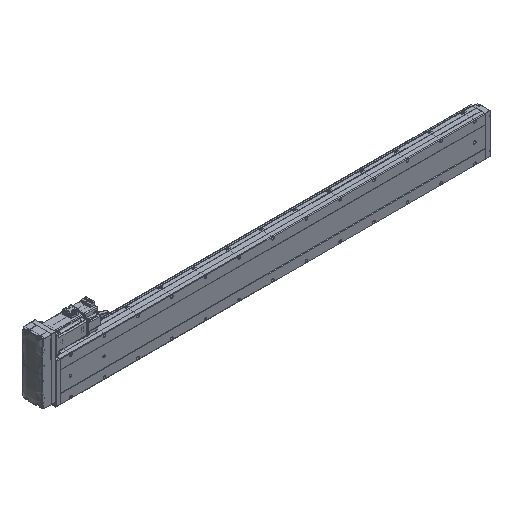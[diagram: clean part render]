
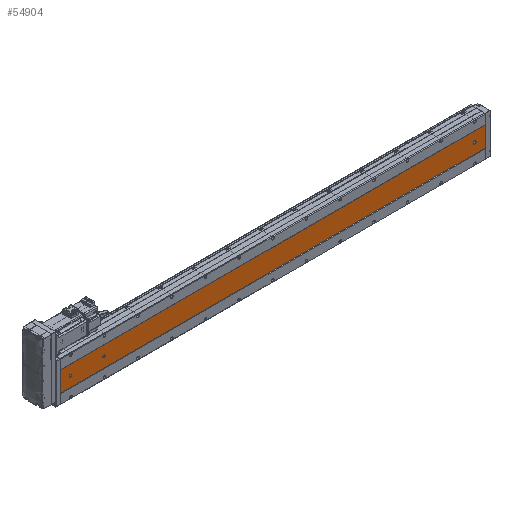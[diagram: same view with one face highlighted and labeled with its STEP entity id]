
A CAD part, isometric view. The second image highlights one B-rep face of the part: STEP entity #54904.
In plain terms, the highlighted planar face has unit normal (0, -1, 0).
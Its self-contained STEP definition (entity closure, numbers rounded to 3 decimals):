
#359 = AXIS2_PLACEMENT_3D ( 'NONE', #56920, #107806, #3283 ) ;
#1152 = VECTOR ( 'NONE', #54715, 1000. ) ;
#2193 = CARTESIAN_POINT ( 'NONE',  ( -69.892, -52.848, 1261. ) ) ;
#3283 = DIRECTION ( 'NONE',  ( 0., 0., 1. ) ) ;
#3406 = VECTOR ( 'NONE', #56566, 1000. ) ;
#3443 = CARTESIAN_POINT ( 'NONE',  ( -36.392, -52.848, 32. ) ) ;
#4205 = EDGE_CURVE ( 'NONE', #46307, #68909, #112987, .T. ) ;
#7248 = CARTESIAN_POINT ( 'NONE',  ( -69.892, -52.848, 1261. ) ) ;
#7480 = DIRECTION ( 'NONE',  ( 0., 1., 0. ) ) ;
#7876 = VERTEX_POINT ( 'NONE', #112672 ) ;
#8264 = EDGE_CURVE ( 'NONE', #68909, #46307, #36563, .T. ) ;
#9391 = CARTESIAN_POINT ( 'NONE',  ( -36.392, -52.848, 1261. ) ) ;
#9656 = CARTESIAN_POINT ( 'NONE',  ( -39.892, -52.848, 1227.5 ) ) ;
#12450 = PLANE ( 'NONE',  #55963 ) ;
#12919 = CARTESIAN_POINT ( 'NONE',  ( -39.892, -52.848, 26.5 ) ) ;
#13784 = AXIS2_PLACEMENT_3D ( 'NONE', #35088, #79079, #77630 ) ;
#14597 = DIRECTION ( 'NONE',  ( 0., 1., 0. ) ) ;
#14779 = EDGE_CURVE ( 'NONE', #97985, #112147, #104602, .T. ) ;
#17572 = VERTEX_POINT ( 'NONE', #3443 ) ;
#18052 = CARTESIAN_POINT ( 'NONE',  ( -39.892, -52.848, 1231. ) ) ;
#18172 = VECTOR ( 'NONE', #104129, 1000. ) ;
#18273 = EDGE_CURVE ( 'NONE', #7876, #62417, #25791, .T. ) ;
#19155 = CARTESIAN_POINT ( 'NONE',  ( -9.892, -52.848, 1261. ) ) ;
#19468 = VERTEX_POINT ( 'NONE', #23218 ) ;
#20029 = ORIENTED_EDGE ( 'NONE', *, *, #100970, .T. ) ;
#21710 = EDGE_LOOP ( 'NONE', ( #98675, #73452, #84254, #29317 ) ) ;
#21763 = DIRECTION ( 'NONE',  ( 0., 0., 1. ) ) ;
#21790 = VERTEX_POINT ( 'NONE', #34909 ) ;
#22935 = DIRECTION ( 'NONE',  ( 0., 1., 0. ) ) ;
#23218 = CARTESIAN_POINT ( 'NONE',  ( -43.392, -52.848, 30. ) ) ;
#24712 = DIRECTION ( 'NONE',  ( 0., 0., 1. ) ) ;
#24803 = ORIENTED_EDGE ( 'NONE', *, *, #64532, .T. ) ;
#25791 = CIRCLE ( 'NONE', #93755, 3.5 ) ;
#26712 = LINE ( 'NONE', #38157, #3406 ) ;
#26984 = EDGE_LOOP ( 'NONE', ( #108599, #111342 ) ) ;
#29317 = ORIENTED_EDGE ( 'NONE', *, *, #34179, .T. ) ;
#30383 = VERTEX_POINT ( 'NONE', #78354 ) ;
#30747 = VECTOR ( 'NONE', #45327, 1000. ) ;
#34104 = CARTESIAN_POINT ( 'NONE',  ( -9.892, -52.848, 0. ) ) ;
#34179 = EDGE_CURVE ( 'NONE', #97985, #21790, #49067, .T. ) ;
#34840 = LINE ( 'NONE', #92405, #54009 ) ;
#34909 = CARTESIAN_POINT ( 'NONE',  ( -69.892, -52.848, 0. ) ) ;
#35088 = CARTESIAN_POINT ( 'NONE',  ( -39.892, -52.848, 1131. ) ) ;
#36563 = CIRCLE ( 'NONE', #60737, 3.5 ) ;
#38120 = LINE ( 'NONE', #19155, #81914 ) ;
#38157 = CARTESIAN_POINT ( 'NONE',  ( -43.392, -52.848, 1261. ) ) ;
#39990 = DIRECTION ( 'NONE',  ( 1., 0., 0. ) ) ;
#43218 = ORIENTED_EDGE ( 'NONE', *, *, #64010, .T. ) ;
#44102 = CARTESIAN_POINT ( 'NONE',  ( -9.892, -52.848, 1261. ) ) ;
#45327 = DIRECTION ( 'NONE',  ( 0., 0., -1. ) ) ;
#45421 = EDGE_CURVE ( 'NONE', #112147, #67886, #38120, .T. ) ;
#46307 = VERTEX_POINT ( 'NONE', #59900 ) ;
#47491 = CARTESIAN_POINT ( 'NONE',  ( -39.892, -52.848, 32. ) ) ;
#49067 = LINE ( 'NONE', #79935, #1152 ) ;
#54009 = VECTOR ( 'NONE', #39990, 1000. ) ;
#54096 = LINE ( 'NONE', #9391, #30747 ) ;
#54391 = FACE_OUTER_BOUND ( 'NONE', #21710, .T. ) ;
#54715 = DIRECTION ( 'NONE',  ( 0., 0., -1. ) ) ;
#54904 = ADVANCED_FACE ( 'NONE', ( #95433, #113302, #59914, #54391 ), #12450, .F. ) ;
#55068 = DIRECTION ( 'NONE',  ( 0., 1., 0. ) ) ;
#55776 = DIRECTION ( 'NONE',  ( 0., 0., 1. ) ) ;
#55963 = AXIS2_PLACEMENT_3D ( 'NONE', #2193, #108202, #55776 ) ;
#56566 = DIRECTION ( 'NONE',  ( 0., 0., 1. ) ) ;
#56920 = CARTESIAN_POINT ( 'NONE',  ( -39.892, -52.848, 30. ) ) ;
#58752 = EDGE_CURVE ( 'NONE', #17572, #7876, #54096, .T. ) ;
#59724 = VERTEX_POINT ( 'NONE', #95410 ) ;
#59817 = AXIS2_PLACEMENT_3D ( 'NONE', #94570, #14597, #103423 ) ;
#59900 = CARTESIAN_POINT ( 'NONE',  ( -39.892, -52.848, 1234.5 ) ) ;
#59914 = FACE_BOUND ( 'NONE', #26984, .T. ) ;
#60737 = AXIS2_PLACEMENT_3D ( 'NONE', #18052, #89182, #97648 ) ;
#62417 = VERTEX_POINT ( 'NONE', #12919 ) ;
#63912 = EDGE_LOOP ( 'NONE', ( #20029, #43218, #104496, #101764, #24803 ) ) ;
#64010 = EDGE_CURVE ( 'NONE', #59724, #17572, #67363, .T. ) ;
#64532 = EDGE_CURVE ( 'NONE', #62417, #19468, #96628, .T. ) ;
#67363 = CIRCLE ( 'NONE', #102947, 3.5 ) ;
#67886 = VERTEX_POINT ( 'NONE', #34104 ) ;
#68909 = VERTEX_POINT ( 'NONE', #9656 ) ;
#69531 = CARTESIAN_POINT ( 'NONE',  ( -39.892, -52.848, 30. ) ) ;
#70598 = EDGE_LOOP ( 'NONE', ( #79511, #77350 ) ) ;
#72310 = DIRECTION ( 'NONE',  ( 0., 0., 1. ) ) ;
#73452 = ORIENTED_EDGE ( 'NONE', *, *, #45421, .F. ) ;
#77350 = ORIENTED_EDGE ( 'NONE', *, *, #108474, .T. ) ;
#77630 = DIRECTION ( 'NONE',  ( 0., 0., 1. ) ) ;
#78354 = CARTESIAN_POINT ( 'NONE',  ( -39.892, -52.848, 1127.5 ) ) ;
#79079 = DIRECTION ( 'NONE',  ( 0., 1., 0. ) ) ;
#79238 = EDGE_CURVE ( 'NONE', #21790, #67886, #34840, .T. ) ;
#79511 = ORIENTED_EDGE ( 'NONE', *, *, #95124, .T. ) ;
#79935 = CARTESIAN_POINT ( 'NONE',  ( -69.892, -52.848, 1261. ) ) ;
#81914 = VECTOR ( 'NONE', #89173, 1000. ) ;
#83171 = CIRCLE ( 'NONE', #13784, 3.5 ) ;
#83860 = CARTESIAN_POINT ( 'NONE',  ( -39.892, -52.848, 1134.5 ) ) ;
#83885 = CARTESIAN_POINT ( 'NONE',  ( -69.892, -52.848, 1261. ) ) ;
#84254 = ORIENTED_EDGE ( 'NONE', *, *, #14779, .F. ) ;
#89160 = CIRCLE ( 'NONE', #59817, 3.5 ) ;
#89173 = DIRECTION ( 'NONE',  ( 0., 0., -1. ) ) ;
#89182 = DIRECTION ( 'NONE',  ( 0., 1., 0. ) ) ;
#89648 = AXIS2_PLACEMENT_3D ( 'NONE', #98305, #55068, #72310 ) ;
#91412 = VERTEX_POINT ( 'NONE', #83860 ) ;
#92405 = CARTESIAN_POINT ( 'NONE',  ( -69.892, -52.848, 0. ) ) ;
#93755 = AXIS2_PLACEMENT_3D ( 'NONE', #69531, #7480, #24712 ) ;
#94570 = CARTESIAN_POINT ( 'NONE',  ( -39.892, -52.848, 1131. ) ) ;
#95124 = EDGE_CURVE ( 'NONE', #30383, #91412, #89160, .T. ) ;
#95410 = CARTESIAN_POINT ( 'NONE',  ( -43.392, -52.848, 32. ) ) ;
#95433 = FACE_BOUND ( 'NONE', #63912, .T. ) ;
#96628 = CIRCLE ( 'NONE', #359, 3.5 ) ;
#97648 = DIRECTION ( 'NONE',  ( 0., 0., 1. ) ) ;
#97985 = VERTEX_POINT ( 'NONE', #83885 ) ;
#98305 = CARTESIAN_POINT ( 'NONE',  ( -39.892, -52.848, 1231. ) ) ;
#98675 = ORIENTED_EDGE ( 'NONE', *, *, #79238, .T. ) ;
#100970 = EDGE_CURVE ( 'NONE', #19468, #59724, #26712, .T. ) ;
#101764 = ORIENTED_EDGE ( 'NONE', *, *, #18273, .T. ) ;
#102947 = AXIS2_PLACEMENT_3D ( 'NONE', #47491, #22935, #21763 ) ;
#103423 = DIRECTION ( 'NONE',  ( 0., 0., 1. ) ) ;
#104129 = DIRECTION ( 'NONE',  ( 1., 0., 0. ) ) ;
#104496 = ORIENTED_EDGE ( 'NONE', *, *, #58752, .T. ) ;
#104602 = LINE ( 'NONE', #7248, #18172 ) ;
#107806 = DIRECTION ( 'NONE',  ( 0., 1., 0. ) ) ;
#108202 = DIRECTION ( 'NONE',  ( 0., 1., 0. ) ) ;
#108474 = EDGE_CURVE ( 'NONE', #91412, #30383, #83171, .T. ) ;
#108599 = ORIENTED_EDGE ( 'NONE', *, *, #8264, .T. ) ;
#111342 = ORIENTED_EDGE ( 'NONE', *, *, #4205, .T. ) ;
#112147 = VERTEX_POINT ( 'NONE', #44102 ) ;
#112672 = CARTESIAN_POINT ( 'NONE',  ( -36.392, -52.848, 30. ) ) ;
#112987 = CIRCLE ( 'NONE', #89648, 3.5 ) ;
#113302 = FACE_BOUND ( 'NONE', #70598, .T. ) ;
